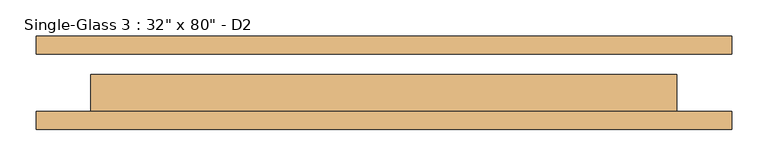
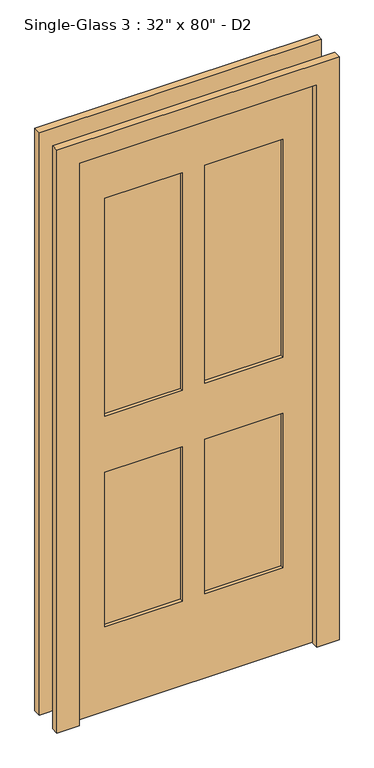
"""IFC4 building model written with IfcOpenShell, lengths in millimetres: door geometry."""

from ifc_helpers import new_model, si_unit, frame, origin, place, context, project, spatial, polyline, outline, extrude, source, transform, mapped, element, save


def door_456b505c(model_context):
    return source(origin(), model_context, "Body", "SweptSolid", [
        extrude(outline(polyline([(2108.2, -482.6), (0.0, -482.6), (0.0, -406.5240165), (2033.3906173, -406.5240165), (2033.3906173, 406.2759835), (0.0, 406.2759835), (0.0, 482.6), (2108.2, 482.6), (2108.2, -482.6)])), frame((0.0, -65.0875, 0.0), z_axis=(0.0, 1.0, 0.0), x_axis=(0.0, 0.0, 1.0)), (0.0, 0.0, 1.0), 25.4),
        extrude(outline(polyline([(2108.2, 482.6), (2108.2, -482.6), (1.3906173, -482.6), (1.3906173, -406.5240165), (2032.0, -406.5240165), (2032.0, 406.4), (0.0, 406.4), (0.0, 482.6), (2108.2, 482.6)])), frame((0.0, 39.6875, 0.0), z_axis=(0.0, 1.0, 0.0), x_axis=(0.0, 0.0, 1.0)), (0.0, 0.0, 1.0), 25.4),
        extrude(outline(polyline([(-37.9166629, -1.5875), (-37.9166629, -26.9875), (-304.8, -26.9875), (-304.8, -1.5875), (-37.9166629, -1.5875)])), frame((0.0, 0.0, 1066.8), z_axis=(0.0, 0.0, 1.0), x_axis=(1.0, 0.0, 0.0)), (0.0, 0.0, 1.0), 787.6046757),
        extrude(outline(polyline([(304.8, -1.5875), (304.8, -26.9875), (37.4271634, -26.9875), (37.4271634, -1.5875), (304.8, -1.5875)])), frame((0.0, 0.0, 1066.8), z_axis=(0.0, 0.0, 1.0), x_axis=(1.0, 0.0, 0.0)), (0.0, 0.0, 1.0), 787.6046757),
        extrude(outline(polyline([(-37.9166629, -1.5875), (-37.9166629, -26.9875), (-304.8, -26.9875), (-304.8, -1.5875), (-37.9166629, -1.5875)])), frame((0.0, 0.0, 305.0046757), z_axis=(0.0, 0.0, 1.0), x_axis=(1.0, 0.0, 0.0)), (0.0, 0.0, 1.0), 558.8),
        extrude(outline(polyline([(304.8, -1.5875), (304.8, -26.9875), (37.4271634, -26.9875), (37.4271634, -1.5875), (304.8, -1.5875)])), frame((0.0, 0.0, 305.0046757), z_axis=(0.0, 0.0, 1.0), x_axis=(1.0, 0.0, 0.0)), (0.0, 0.0, 1.0), 558.5953243),
        extrude(outline(polyline([(2033.3906173, 406.2759835), (2033.3906173, -406.5240165), (1.3906173, -406.5240165), (1.3906173, 406.2759835), (2033.3906173, 406.2759835)]), holes=[polyline([(1855.795293, -38.2240165), (1068.1906173, -38.2240165), (1068.1906173, -304.2511799), (1855.795293, -304.2511799), (1855.795293, -38.2240165)]), polyline([(1855.795293, 305.3488201), (1068.1906173, 305.3488201), (1068.1906173, 37.9759835), (1855.795293, 37.9759835), (1855.795293, 305.3488201)]), polyline([(865.195293, -38.2240165), (306.395293, -38.2240165), (306.395293, -304.2511799), (865.195293, -304.2511799), (865.195293, -38.2240165)]), polyline([(864.9906173, 305.3488201), (306.395293, 305.3488201), (306.395293, 37.9759835), (864.9906173, 37.9759835), (864.9906173, 305.3488201)])]), frame((0.0, -39.6875, 0.0), z_axis=(0.0, 1.0, 0.0), x_axis=(0.0, 0.0, 1.0)), (0.0, 0.0, 1.0), 50.8),
    ])


if __name__ == "__main__":
    model = new_model("IFC4")
    model_context = context("Model", 3, world=origin())
    ifc_project = project(units=[si_unit("LENGTHUNIT", "METRE", prefix="MILLI")], contexts=[model_context])
    site = spatial("IfcSite", under=ifc_project)
    building = spatial("IfcBuilding", under=site)
    placement = place(None, origin())
    door_shape = door_456b505c(model_context)
    element("IfcDoor", 1, ObjectType="Single-Glass 3 : 32\" x 80\" - D2", at=placement, inside=building, context=model_context, shape_type="MappedRepresentation", body=[
        mapped(door_shape, transform((0.0, 0.0, 0.0), x_axis=(1.0, 0.0, 0.0), y_axis=(0.0, 1.0, 0.0), z_axis=(0.0, 0.0, 1.0))),
    ])
    save(model, "model.ifc")
